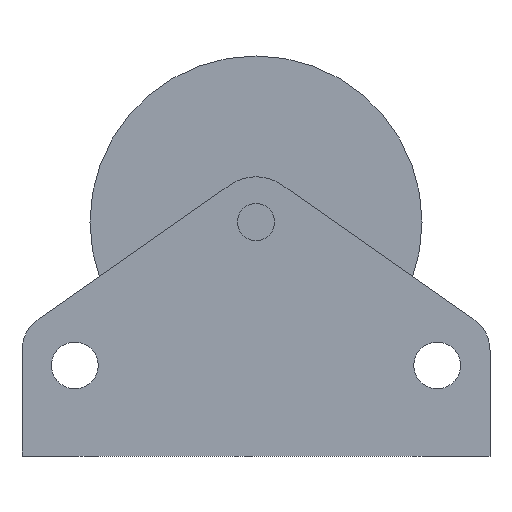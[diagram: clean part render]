
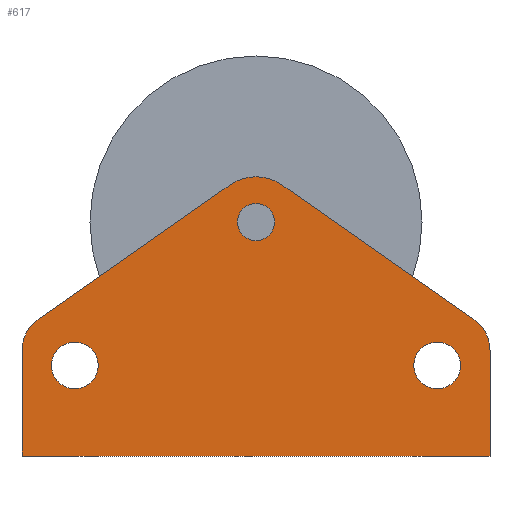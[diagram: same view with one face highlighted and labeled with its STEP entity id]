
A CAD part, left-side view. The second image highlights one B-rep face of the part: STEP entity #617.
In plain terms, the highlighted planar face has unit normal (-1, 0, 0).
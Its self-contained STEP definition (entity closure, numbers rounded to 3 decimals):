
#9 = DIRECTION ( 'NONE',  ( 1., 0., 0. ) ) ;
#19 = ORIENTED_EDGE ( 'NONE', *, *, #1224, .T. ) ;
#34 = CARTESIAN_POINT ( 'NONE',  ( 0., 7., 12. ) ) ;
#35 = FACE_BOUND ( 'NONE', #1750, .T. ) ;
#46 = AXIS2_PLACEMENT_3D ( 'NONE', #537, #1782, #718 ) ;
#99 = ORIENTED_EDGE ( 'NONE', *, *, #549, .T. ) ;
#127 = EDGE_LOOP ( 'NONE', ( #1024, #19, #1692, #1884, #1772, #2199, #910, #1501, #1796 ) ) ;
#141 = CARTESIAN_POINT ( 'NONE',  ( 0., 34.441, 35.915 ) ) ;
#167 = AXIS2_PLACEMENT_3D ( 'NONE', #1089, #9, #1263 ) ;
#174 = CARTESIAN_POINT ( 'NONE',  ( 0., 62., 40. ) ) ;
#195 = CARTESIAN_POINT ( 'NONE',  ( 0., 31., 31. ) ) ;
#214 = AXIS2_PLACEMENT_3D ( 'NONE', #195, #1446, #372 ) ;
#224 = DIRECTION ( 'NONE',  ( 0., 0., 1. ) ) ;
#236 = LINE ( 'NONE', #293, #702 ) ;
#245 = CARTESIAN_POINT ( 'NONE',  ( 0., 2.132, 18.111 ) ) ;
#271 = EDGE_CURVE ( 'NONE', #847, #302, #236, .T. ) ;
#293 = CARTESIAN_POINT ( 'NONE',  ( 0., 0., 40. ) ) ;
#302 = VERTEX_POINT ( 'NONE', #1313 ) ;
#334 = VERTEX_POINT ( 'NONE', #1181 ) ;
#363 = PLANE ( 'NONE',  #2247 ) ;
#372 = DIRECTION ( 'NONE',  ( 0., 0., -1. ) ) ;
#384 = VERTEX_POINT ( 'NONE', #2179 ) ;
#399 = AXIS2_PLACEMENT_3D ( 'NONE', #479, #1728, #655 ) ;
#419 = VECTOR ( 'NONE', #1205, 1000. ) ;
#423 = CARTESIAN_POINT ( 'NONE',  ( 0., 62., 0. ) ) ;
#426 = DIRECTION ( 'NONE',  ( 0., 0.819, 0.574 ) ) ;
#470 = VERTEX_POINT ( 'NONE', #569 ) ;
#479 = CARTESIAN_POINT ( 'NONE',  ( 0., 31., 31. ) ) ;
#509 = FACE_BOUND ( 'NONE', #595, .T. ) ;
#521 = CARTESIAN_POINT ( 'NONE',  ( 0., 62., 0. ) ) ;
#524 = CARTESIAN_POINT ( 'NONE',  ( 0., 5., 14.015 ) ) ;
#526 = DIRECTION ( 'NONE',  ( 0., 0., 1. ) ) ;
#531 = CIRCLE ( 'NONE', #214, 2.458 ) ;
#537 = CARTESIAN_POINT ( 'NONE',  ( 0., 57., 14.015 ) ) ;
#548 = ORIENTED_EDGE ( 'NONE', *, *, #664, .T. ) ;
#549 = EDGE_CURVE ( 'NONE', #470, #384, #1206, .T. ) ;
#569 = CARTESIAN_POINT ( 'NONE',  ( 0., 55., 8.9 ) ) ;
#573 = EDGE_LOOP ( 'NONE', ( #1886, #99 ) ) ;
#582 = CARTESIAN_POINT ( 'NONE',  ( 0., 31., 37. ) ) ;
#592 = DIRECTION ( 'NONE',  ( 0., -1., 0. ) ) ;
#595 = EDGE_LOOP ( 'NONE', ( #1554, #1851 ) ) ;
#609 = CARTESIAN_POINT ( 'NONE',  ( 0., 7., 15.1 ) ) ;
#617 = ADVANCED_FACE ( 'NONE', ( #509, #930, #35, #1409 ), #363, .T. ) ;
#648 = CIRCLE ( 'NONE', #399, 6. ) ;
#651 = EDGE_CURVE ( 'NONE', #1696, #334, #2303, .T. ) ;
#655 = DIRECTION ( 'NONE',  ( 0., 0., 1. ) ) ;
#664 = EDGE_CURVE ( 'NONE', #1993, #1105, #1360, .T. ) ;
#689 = CARTESIAN_POINT ( 'NONE',  ( 0., 27.559, 35.915 ) ) ;
#702 = VECTOR ( 'NONE', #1864, 1000. ) ;
#705 = DIRECTION ( 'NONE',  ( 0., 0., -1. ) ) ;
#718 = DIRECTION ( 'NONE',  ( 0., 0., 1. ) ) ;
#772 = DIRECTION ( 'NONE',  ( -1., 0., 0. ) ) ;
#794 = AXIS2_PLACEMENT_3D ( 'NONE', #1836, #772, #2022 ) ;
#833 = EDGE_CURVE ( 'NONE', #1193, #2259, #1955, .T. ) ;
#844 = EDGE_CURVE ( 'NONE', #1211, #847, #1012, .T. ) ;
#847 = VERTEX_POINT ( 'NONE', #1321 ) ;
#866 = DIRECTION ( 'NONE',  ( 1., 0., 0. ) ) ;
#910 = ORIENTED_EDGE ( 'NONE', *, *, #651, .T. ) ;
#924 = AXIS2_PLACEMENT_3D ( 'NONE', #1776, #950, #1445 ) ;
#930 = FACE_BOUND ( 'NONE', #573, .T. ) ;
#950 = DIRECTION ( 'NONE',  ( 1., 0., 0. ) ) ;
#965 = CARTESIAN_POINT ( 'NONE',  ( 0., 7., 12. ) ) ;
#1012 = LINE ( 'NONE', #423, #1897 ) ;
#1024 = ORIENTED_EDGE ( 'NONE', *, *, #271, .T. ) ;
#1050 = DIRECTION ( 'NONE',  ( 0., 0., -1. ) ) ;
#1061 = EDGE_CURVE ( 'NONE', #2259, #1317, #648, .T. ) ;
#1089 = CARTESIAN_POINT ( 'NONE',  ( 0., 31., 31. ) ) ;
#1105 = VERTEX_POINT ( 'NONE', #1907 ) ;
#1143 = DIRECTION ( 'NONE',  ( 0., 0., 1. ) ) ;
#1172 = AXIS2_PLACEMENT_3D ( 'NONE', #965, #2215, #1143 ) ;
#1176 = EDGE_CURVE ( 'NONE', #384, #470, #1790, .T. ) ;
#1181 = CARTESIAN_POINT ( 'NONE',  ( 0., 62., 14.015 ) ) ;
#1193 = VERTEX_POINT ( 'NONE', #689 ) ;
#1205 = DIRECTION ( 'NONE',  ( 0., 0.819, -0.574 ) ) ;
#1206 = CIRCLE ( 'NONE', #924, 3.1 ) ;
#1211 = VERTEX_POINT ( 'NONE', #521 ) ;
#1224 = EDGE_CURVE ( 'NONE', #302, #2167, #2222, .T. ) ;
#1241 = VERTEX_POINT ( 'NONE', #1952 ) ;
#1263 = DIRECTION ( 'NONE',  ( 0., 0., -1. ) ) ;
#1298 = DIRECTION ( 'NONE',  ( 1., 0., 0. ) ) ;
#1313 = CARTESIAN_POINT ( 'NONE',  ( 0., 0., 14.015 ) ) ;
#1317 = VERTEX_POINT ( 'NONE', #2065 ) ;
#1321 = CARTESIAN_POINT ( 'NONE',  ( 0., 0., 0. ) ) ;
#1330 = CARTESIAN_POINT ( 'NONE',  ( 0., 59.868, 18.111 ) ) ;
#1332 = CIRCLE ( 'NONE', #1172, 3.1 ) ;
#1360 = CIRCLE ( 'NONE', #167, 2.458 ) ;
#1406 = CARTESIAN_POINT ( 'NONE',  ( 0., 62., 40. ) ) ;
#1409 = FACE_OUTER_BOUND ( 'NONE', #127, .T. ) ;
#1420 = ORIENTED_EDGE ( 'NONE', *, *, #1630, .T. ) ;
#1445 = DIRECTION ( 'NONE',  ( 0., 0., 1. ) ) ;
#1446 = DIRECTION ( 'NONE',  ( 1., 0., 0. ) ) ;
#1485 = VECTOR ( 'NONE', #426, 1000. ) ;
#1501 = ORIENTED_EDGE ( 'NONE', *, *, #1968, .T. ) ;
#1538 = LINE ( 'NONE', #245, #1485 ) ;
#1554 = ORIENTED_EDGE ( 'NONE', *, *, #2217, .T. ) ;
#1564 = AXIS2_PLACEMENT_3D ( 'NONE', #34, #1298, #224 ) ;
#1595 = AXIS2_PLACEMENT_3D ( 'NONE', #1941, #866, #2124 ) ;
#1607 = DIRECTION ( 'NONE',  ( -1., 0., 0. ) ) ;
#1626 = CARTESIAN_POINT ( 'NONE',  ( 0., 2.132, 18.111 ) ) ;
#1630 = EDGE_CURVE ( 'NONE', #1105, #1993, #531, .T. ) ;
#1678 = VECTOR ( 'NONE', #1050, 1000. ) ;
#1679 = EDGE_CURVE ( 'NONE', #1241, #1703, #1332, .T. ) ;
#1692 = ORIENTED_EDGE ( 'NONE', *, *, #2305, .T. ) ;
#1696 = VERTEX_POINT ( 'NONE', #1330 ) ;
#1703 = VERTEX_POINT ( 'NONE', #609 ) ;
#1727 = LINE ( 'NONE', #1406, #1678 ) ;
#1728 = DIRECTION ( 'NONE',  ( -1., 0., 0. ) ) ;
#1750 = EDGE_LOOP ( 'NONE', ( #1420, #548 ) ) ;
#1756 = CARTESIAN_POINT ( 'NONE',  ( 0., 31., 33.459 ) ) ;
#1772 = ORIENTED_EDGE ( 'NONE', *, *, #1061, .T. ) ;
#1776 = CARTESIAN_POINT ( 'NONE',  ( 0., 55., 12. ) ) ;
#1777 = DIRECTION ( 'NONE',  ( -1., 0., 0. ) ) ;
#1782 = DIRECTION ( 'NONE',  ( -1., 0., 0. ) ) ;
#1790 = CIRCLE ( 'NONE', #1595, 3.1 ) ;
#1796 = ORIENTED_EDGE ( 'NONE', *, *, #844, .T. ) ;
#1836 = CARTESIAN_POINT ( 'NONE',  ( 0., 31., 31. ) ) ;
#1851 = ORIENTED_EDGE ( 'NONE', *, *, #1679, .T. ) ;
#1864 = DIRECTION ( 'NONE',  ( 0., 0., 1. ) ) ;
#1884 = ORIENTED_EDGE ( 'NONE', *, *, #833, .T. ) ;
#1886 = ORIENTED_EDGE ( 'NONE', *, *, #1176, .T. ) ;
#1890 = EDGE_CURVE ( 'NONE', #1317, #1696, #2263, .T. ) ;
#1897 = VECTOR ( 'NONE', #592, 1000. ) ;
#1907 = CARTESIAN_POINT ( 'NONE',  ( 0., 31., 28.541 ) ) ;
#1941 = CARTESIAN_POINT ( 'NONE',  ( 0., 55., 12. ) ) ;
#1952 = CARTESIAN_POINT ( 'NONE',  ( 0., 7., 8.9 ) ) ;
#1955 = CIRCLE ( 'NONE', #794, 6. ) ;
#1968 = EDGE_CURVE ( 'NONE', #334, #1211, #1727, .T. ) ;
#1993 = VERTEX_POINT ( 'NONE', #1756 ) ;
#2022 = DIRECTION ( 'NONE',  ( 0., 0., 1. ) ) ;
#2065 = CARTESIAN_POINT ( 'NONE',  ( 0., 34.441, 35.915 ) ) ;
#2118 = CIRCLE ( 'NONE', #1564, 3.1 ) ;
#2124 = DIRECTION ( 'NONE',  ( 0., 0., 1. ) ) ;
#2167 = VERTEX_POINT ( 'NONE', #1626 ) ;
#2179 = CARTESIAN_POINT ( 'NONE',  ( 0., 55., 15.1 ) ) ;
#2199 = ORIENTED_EDGE ( 'NONE', *, *, #1890, .T. ) ;
#2215 = DIRECTION ( 'NONE',  ( 1., 0., 0. ) ) ;
#2217 = EDGE_CURVE ( 'NONE', #1703, #1241, #2118, .T. ) ;
#2222 = CIRCLE ( 'NONE', #2314, 5. ) ;
#2247 = AXIS2_PLACEMENT_3D ( 'NONE', #174, #1607, #526 ) ;
#2259 = VERTEX_POINT ( 'NONE', #582 ) ;
#2263 = LINE ( 'NONE', #141, #419 ) ;
#2303 = CIRCLE ( 'NONE', #46, 5. ) ;
#2305 = EDGE_CURVE ( 'NONE', #2167, #1193, #1538, .T. ) ;
#2314 = AXIS2_PLACEMENT_3D ( 'NONE', #524, #1777, #705 ) ;
